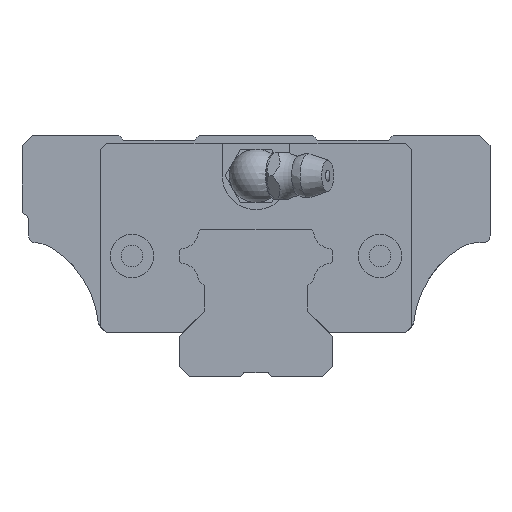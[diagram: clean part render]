
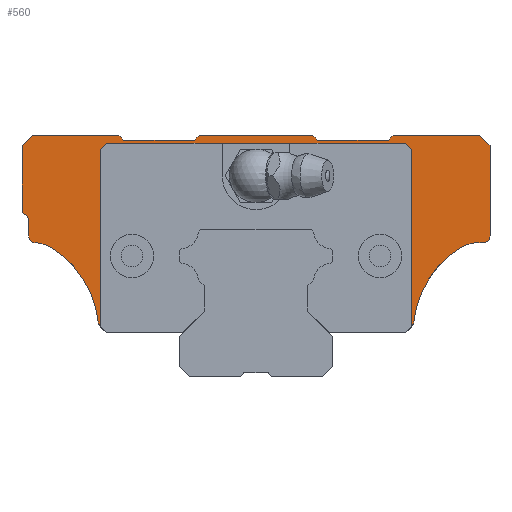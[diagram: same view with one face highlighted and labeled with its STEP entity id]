
A CAD part, front view. The second image highlights one B-rep face of the part: STEP entity #560.
In plain terms, the highlighted planar face has unit normal (0, -1, 0).
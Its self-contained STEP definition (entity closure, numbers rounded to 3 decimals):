
#362=CIRCLE('',#4147,2.);
#363=CIRCLE('',#4148,15.);
#364=CIRCLE('',#4149,5.);
#365=CIRCLE('',#4150,1.);
#366=CIRCLE('',#4151,1.);
#367=CIRCLE('',#4152,1.);
#368=CIRCLE('',#4153,1.);
#369=CIRCLE('',#4154,5.);
#370=CIRCLE('',#4155,15.);
#371=CIRCLE('',#4156,2.);
#560=ADVANCED_FACE('',(#907),#739,.T.);
#739=PLANE('',#4157);
#907=FACE_OUTER_BOUND('',#1141,.T.);
#1141=EDGE_LOOP('',(#1884,#1885,#1886,#1887,#1888,#1889,#1890,#1891,#1892,
#1893,#1894,#1895,#1896,#1897,#1898,#1899,#1900,#1901,#1902,#1903,#1904,
#1905,#1906,#1907,#1908,#1909,#1910,#1911,#1912,#1913,#1914));
#1884=ORIENTED_EDGE('',*,*,#3011,.F.);
#1885=ORIENTED_EDGE('',*,*,#3002,.T.);
#1886=ORIENTED_EDGE('',*,*,#2988,.T.);
#1887=ORIENTED_EDGE('',*,*,#3004,.T.);
#1888=ORIENTED_EDGE('',*,*,#3006,.T.);
#1889=ORIENTED_EDGE('',*,*,#3024,.F.);
#1890=ORIENTED_EDGE('',*,*,#3025,.F.);
#1891=ORIENTED_EDGE('',*,*,#3026,.F.);
#1892=ORIENTED_EDGE('',*,*,#3027,.F.);
#1893=ORIENTED_EDGE('',*,*,#3028,.F.);
#1894=ORIENTED_EDGE('',*,*,#3029,.F.);
#1895=ORIENTED_EDGE('',*,*,#3030,.F.);
#1896=ORIENTED_EDGE('',*,*,#3031,.F.);
#1897=ORIENTED_EDGE('',*,*,#3032,.F.);
#1898=ORIENTED_EDGE('',*,*,#3033,.F.);
#1899=ORIENTED_EDGE('',*,*,#3034,.F.);
#1900=ORIENTED_EDGE('',*,*,#3035,.F.);
#1901=ORIENTED_EDGE('',*,*,#3036,.F.);
#1902=ORIENTED_EDGE('',*,*,#3037,.F.);
#1903=ORIENTED_EDGE('',*,*,#3038,.F.);
#1904=ORIENTED_EDGE('',*,*,#3039,.F.);
#1905=ORIENTED_EDGE('',*,*,#3040,.F.);
#1906=ORIENTED_EDGE('',*,*,#3041,.F.);
#1907=ORIENTED_EDGE('',*,*,#3042,.F.);
#1908=ORIENTED_EDGE('',*,*,#3043,.F.);
#1909=ORIENTED_EDGE('',*,*,#3044,.F.);
#1910=ORIENTED_EDGE('',*,*,#3045,.F.);
#1911=ORIENTED_EDGE('',*,*,#3046,.F.);
#1912=ORIENTED_EDGE('',*,*,#3047,.F.);
#1913=ORIENTED_EDGE('',*,*,#3048,.F.);
#1914=ORIENTED_EDGE('',*,*,#3049,.F.);
#2470=VERTEX_POINT('',#6021);
#2472=VERTEX_POINT('',#6027);
#2531=VERTEX_POINT('',#6189);
#2532=VERTEX_POINT('',#6191);
#2542=VERTEX_POINT('',#6217);
#2543=VERTEX_POINT('',#6221);
#2552=VERTEX_POINT('',#6268);
#2553=VERTEX_POINT('',#6270);
#2554=VERTEX_POINT('',#6272);
#2555=VERTEX_POINT('',#6274);
#2556=VERTEX_POINT('',#6276);
#2557=VERTEX_POINT('',#6278);
#2558=VERTEX_POINT('',#6280);
#2559=VERTEX_POINT('',#6282);
#2560=VERTEX_POINT('',#6284);
#2561=VERTEX_POINT('',#6286);
#2562=VERTEX_POINT('',#6288);
#2563=VERTEX_POINT('',#6290);
#2564=VERTEX_POINT('',#6292);
#2565=VERTEX_POINT('',#6294);
#2566=VERTEX_POINT('',#6296);
#2567=VERTEX_POINT('',#6298);
#2568=VERTEX_POINT('',#6300);
#2569=VERTEX_POINT('',#6302);
#2570=VERTEX_POINT('',#6304);
#2571=VERTEX_POINT('',#6306);
#2572=VERTEX_POINT('',#6308);
#2573=VERTEX_POINT('',#6310);
#2574=VERTEX_POINT('',#6312);
#2575=VERTEX_POINT('',#6314);
#2576=VERTEX_POINT('',#6316);
#2988=EDGE_CURVE('',#2532,#2531,#3423,.T.);
#3002=EDGE_CURVE('',#2542,#2532,#3434,.T.);
#3004=EDGE_CURVE('',#2531,#2543,#3436,.T.);
#3006=EDGE_CURVE('',#2543,#2472,#3438,.T.);
#3011=EDGE_CURVE('',#2542,#2470,#3443,.T.);
#3024=EDGE_CURVE('',#2552,#2472,#362,.T.);
#3025=EDGE_CURVE('',#2553,#2552,#363,.T.);
#3026=EDGE_CURVE('',#2554,#2553,#364,.T.);
#3027=EDGE_CURVE('',#2555,#2554,#3448,.T.);
#3028=EDGE_CURVE('',#2556,#2555,#365,.T.);
#3029=EDGE_CURVE('',#2557,#2556,#3449,.T.);
#3030=EDGE_CURVE('',#2558,#2557,#3450,.T.);
#3031=EDGE_CURVE('',#2559,#2558,#3451,.T.);
#3032=EDGE_CURVE('',#2560,#2559,#3452,.T.);
#3033=EDGE_CURVE('',#2561,#2560,#3453,.T.);
#3034=EDGE_CURVE('',#2562,#2561,#3454,.T.);
#3035=EDGE_CURVE('',#2563,#2562,#3455,.T.);
#3036=EDGE_CURVE('',#2564,#2563,#3456,.T.);
#3037=EDGE_CURVE('',#2565,#2564,#3457,.T.);
#3038=EDGE_CURVE('',#2566,#2565,#3458,.T.);
#3039=EDGE_CURVE('',#2567,#2566,#3459,.T.);
#3040=EDGE_CURVE('',#2568,#2567,#3460,.T.);
#3041=EDGE_CURVE('',#2569,#2568,#3461,.T.);
#3042=EDGE_CURVE('',#2570,#2569,#366,.T.);
#3043=EDGE_CURVE('',#2571,#2570,#3462,.T.);
#3044=EDGE_CURVE('',#2572,#2571,#367,.T.);
#3045=EDGE_CURVE('',#2573,#2572,#3463,.T.);
#3046=EDGE_CURVE('',#2574,#2573,#368,.T.);
#3047=EDGE_CURVE('',#2575,#2574,#369,.T.);
#3048=EDGE_CURVE('',#2576,#2575,#370,.T.);
#3049=EDGE_CURVE('',#2470,#2576,#371,.T.);
#3423=LINE('',#6190,#3772);
#3434=LINE('',#6216,#3783);
#3436=LINE('',#6220,#3785);
#3438=LINE('',#6224,#3787);
#3443=LINE('',#6232,#3792);
#3448=LINE('',#6273,#3797);
#3449=LINE('',#6277,#3798);
#3450=LINE('',#6279,#3799);
#3451=LINE('',#6281,#3800);
#3452=LINE('',#6283,#3801);
#3453=LINE('',#6285,#3802);
#3454=LINE('',#6287,#3803);
#3455=LINE('',#6289,#3804);
#3456=LINE('',#6291,#3805);
#3457=LINE('',#6293,#3806);
#3458=LINE('',#6295,#3807);
#3459=LINE('',#6297,#3808);
#3460=LINE('',#6299,#3809);
#3461=LINE('',#6301,#3810);
#3462=LINE('',#6305,#3811);
#3463=LINE('',#6309,#3812);
#3772=VECTOR('',#4890,1.);
#3783=VECTOR('',#4911,1.);
#3785=VECTOR('',#4915,1.);
#3787=VECTOR('',#4919,1.);
#3792=VECTOR('',#4930,1.);
#3797=VECTOR('',#4985,1.);
#3798=VECTOR('',#4988,1.);
#3799=VECTOR('',#4989,1.);
#3800=VECTOR('',#4990,1.);
#3801=VECTOR('',#4991,1.);
#3802=VECTOR('',#4992,1.);
#3803=VECTOR('',#4993,1.);
#3804=VECTOR('',#4994,1.);
#3805=VECTOR('',#4995,1.);
#3806=VECTOR('',#4996,1.);
#3807=VECTOR('',#4997,1.);
#3808=VECTOR('',#4998,1.);
#3809=VECTOR('',#4999,1.);
#3810=VECTOR('',#5000,1.);
#3811=VECTOR('',#5003,1.);
#3812=VECTOR('',#5006,1.);
#4147=AXIS2_PLACEMENT_3D('',#6267,#4979,#4980);
#4148=AXIS2_PLACEMENT_3D('',#6269,#4981,#4982);
#4149=AXIS2_PLACEMENT_3D('',#6271,#4983,#4984);
#4150=AXIS2_PLACEMENT_3D('',#6275,#4986,#4987);
#4151=AXIS2_PLACEMENT_3D('',#6303,#5001,#5002);
#4152=AXIS2_PLACEMENT_3D('',#6307,#5004,#5005);
#4153=AXIS2_PLACEMENT_3D('',#6311,#5007,#5008);
#4154=AXIS2_PLACEMENT_3D('',#6313,#5009,#5010);
#4155=AXIS2_PLACEMENT_3D('',#6315,#5011,#5012);
#4156=AXIS2_PLACEMENT_3D('',#6317,#5013,#5014);
#4157=AXIS2_PLACEMENT_3D('',#6318,#5015,#5016);
#4890=DIRECTION('',(1.,0.,0.));
#4911=DIRECTION('',(0.707,0.,0.707));
#4915=DIRECTION('',(0.707,0.,-0.707));
#4919=DIRECTION('',(0.,0.,-1.));
#4930=DIRECTION('',(0.,0.,-1.));
#4979=DIRECTION('',(0.,1.,0.));
#4980=DIRECTION('',(1.,0.,0.));
#4981=DIRECTION('',(0.,-1.,0.));
#4982=DIRECTION('',(1.,0.,0.));
#4983=DIRECTION('',(0.,-1.,0.));
#4984=DIRECTION('',(1.,0.,0.));
#4985=DIRECTION('',(-1.,0.,0.));
#4986=DIRECTION('',(0.,1.,0.));
#4987=DIRECTION('',(1.,0.,0.));
#4988=DIRECTION('',(0.,0.,-1.));
#4989=DIRECTION('',(0.707,0.,-0.707));
#4990=DIRECTION('',(1.,0.,0.));
#4991=DIRECTION('',(0.707,0.,0.707));
#4992=DIRECTION('',(1.,0.,0.));
#4993=DIRECTION('',(0.707,0.,-0.707));
#4994=DIRECTION('',(1.,0.,0.));
#4995=DIRECTION('',(0.707,0.,0.707));
#4996=DIRECTION('',(1.,0.,0.));
#4997=DIRECTION('',(0.707,0.,-0.707));
#4998=DIRECTION('',(1.,0.,0.));
#4999=DIRECTION('',(0.707,0.,0.707));
#5000=DIRECTION('',(0.,0.,1.));
#5001=DIRECTION('',(0.,1.,0.));
#5002=DIRECTION('',(1.,0.,0.));
#5003=DIRECTION('',(-0.914,0.,0.407));
#5004=DIRECTION('',(0.,-1.,0.));
#5005=DIRECTION('',(1.,0.,0.));
#5006=DIRECTION('',(0.,0.,1.));
#5007=DIRECTION('',(0.,1.,0.));
#5008=DIRECTION('',(1.,0.,0.));
#5009=DIRECTION('',(0.,-1.,0.));
#5010=DIRECTION('',(1.,0.,0.));
#5011=DIRECTION('',(0.,-1.,0.));
#5012=DIRECTION('',(1.,0.,0.));
#5013=DIRECTION('',(0.,1.,0.));
#5014=DIRECTION('',(1.,0.,0.));
#5015=DIRECTION('',(0.,-1.,0.));
#5016=DIRECTION('',(0.,0.,-1.));
#6021=CARTESIAN_POINT('',(-23.3,-39.,7.418));
#6027=CARTESIAN_POINT('',(23.3,-39.,7.418));
#6189=CARTESIAN_POINT('',(22.4,-39.,34.9));
#6190=CARTESIAN_POINT('',(-22.4,-39.,34.9));
#6191=CARTESIAN_POINT('',(-22.4,-39.,34.9));
#6216=CARTESIAN_POINT('',(-23.3,-39.,34.));
#6217=CARTESIAN_POINT('',(-23.3,-39.,34.));
#6220=CARTESIAN_POINT('',(22.4,-39.,34.9));
#6221=CARTESIAN_POINT('',(23.3,-39.,34.));
#6224=CARTESIAN_POINT('',(23.3,-39.,34.));
#6232=CARTESIAN_POINT('',(-23.3,-39.,34.));
#6267=CARTESIAN_POINT('',(21.618,-39.,8.5));
#6268=CARTESIAN_POINT('',(23.604,-39.,8.265));
#6269=CARTESIAN_POINT('',(38.5,-39.,6.5));
#6270=CARTESIAN_POINT('',(30.61,-39.,19.257));
#6271=CARTESIAN_POINT('',(33.24,-39.,15.005));
#6272=CARTESIAN_POINT('',(33.021,-39.,20.));
#6273=CARTESIAN_POINT('',(34.,-39.,20.));
#6274=CARTESIAN_POINT('',(34.,-39.,20.));
#6275=CARTESIAN_POINT('',(34.,-39.,21.));
#6276=CARTESIAN_POINT('',(35.,-39.,21.));
#6277=CARTESIAN_POINT('',(35.,-39.,34.5));
#6278=CARTESIAN_POINT('',(35.,-39.,34.5));
#6279=CARTESIAN_POINT('',(33.5,-39.,36.));
#6280=CARTESIAN_POINT('',(33.5,-39.,36.));
#6281=CARTESIAN_POINT('',(20.5,-39.,36.));
#6282=CARTESIAN_POINT('',(20.5,-39.,36.));
#6283=CARTESIAN_POINT('',(19.8,-39.,35.3));
#6284=CARTESIAN_POINT('',(19.8,-39.,35.3));
#6285=CARTESIAN_POINT('',(9.2,-39.,35.3));
#6286=CARTESIAN_POINT('',(9.2,-39.,35.3));
#6287=CARTESIAN_POINT('',(8.5,-39.,36.));
#6288=CARTESIAN_POINT('',(8.5,-39.,36.));
#6289=CARTESIAN_POINT('',(-8.5,-39.,36.));
#6290=CARTESIAN_POINT('',(-8.5,-39.,36.));
#6291=CARTESIAN_POINT('',(-9.2,-39.,35.3));
#6292=CARTESIAN_POINT('',(-9.2,-39.,35.3));
#6293=CARTESIAN_POINT('',(-19.8,-39.,35.3));
#6294=CARTESIAN_POINT('',(-19.8,-39.,35.3));
#6295=CARTESIAN_POINT('',(-20.5,-39.,36.));
#6296=CARTESIAN_POINT('',(-20.5,-39.,36.));
#6297=CARTESIAN_POINT('',(-33.5,-39.,36.));
#6298=CARTESIAN_POINT('',(-33.5,-39.,36.));
#6299=CARTESIAN_POINT('',(-35.,-39.,34.5));
#6300=CARTESIAN_POINT('',(-35.,-39.,34.5));
#6301=CARTESIAN_POINT('',(-35.,-39.,25.));
#6302=CARTESIAN_POINT('',(-35.,-39.,25.));
#6303=CARTESIAN_POINT('',(-34.,-39.,25.));
#6304=CARTESIAN_POINT('',(-34.5,-39.,24.134));
#6305=CARTESIAN_POINT('',(-34.499,-39.,24.133));
#6306=CARTESIAN_POINT('',(-34.499,-39.,24.133));
#6307=CARTESIAN_POINT('',(-35.,-39.,23.268));
#6308=CARTESIAN_POINT('',(-34.,-39.,23.268));
#6309=CARTESIAN_POINT('',(-34.,-39.,21.));
#6310=CARTESIAN_POINT('',(-34.,-39.,21.));
#6311=CARTESIAN_POINT('',(-33.,-39.,21.));
#6312=CARTESIAN_POINT('',(-33.04,-39.,20.001));
#6313=CARTESIAN_POINT('',(-33.24,-39.,15.005));
#6314=CARTESIAN_POINT('',(-30.598,-39.,19.25));
#6315=CARTESIAN_POINT('',(-38.5,-39.,6.5));
#6316=CARTESIAN_POINT('',(-23.604,-39.,8.265));
#6317=CARTESIAN_POINT('',(-21.618,-39.,8.5));
#6318=CARTESIAN_POINT('',(-35.,-39.,23.268));
